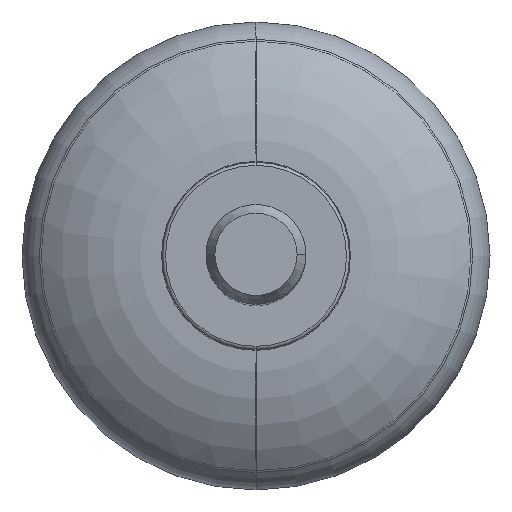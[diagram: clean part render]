
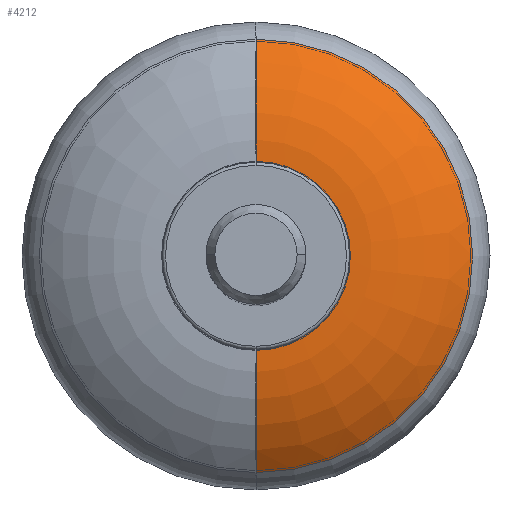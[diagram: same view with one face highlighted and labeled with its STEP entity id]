
A CAD part, top view. The second image highlights one B-rep face of the part: STEP entity #4212.
In plain terms, the highlighted toroidal (fillet/blend) face has major radius 15.132 mm and minor radius 30 mm.
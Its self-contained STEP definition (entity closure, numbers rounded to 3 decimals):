
#17 = CARTESIAN_POINT ( 'NONE',  ( 0., 34.719, -9.277 ) ) ;
#176 = CARTESIAN_POINT ( 'NONE',  ( 0., 14.159, -2.016 ) ) ;
#193 = FACE_OUTER_BOUND ( 'NONE', #1896, .T. ) ;
#244 = VERTEX_POINT ( 'NONE', #17 ) ;
#833 = DIRECTION ( 'NONE',  ( 0., 0., -1. ) ) ;
#898 = ORIENTED_EDGE ( 'NONE', *, *, #1505, .F. ) ;
#1258 = ORIENTED_EDGE ( 'NONE', *, *, #1445, .F. ) ;
#1264 = DIRECTION ( 'NONE',  ( 0., 1., 0. ) ) ;
#1337 = AXIS2_PLACEMENT_3D ( 'NONE', #5335, #833, #4579 ) ;
#1445 = EDGE_CURVE ( 'NONE', #244, #4792, #4297, .T. ) ;
#1505 = EDGE_CURVE ( 'NONE', #4792, #3390, #4386, .T. ) ;
#1555 = ORIENTED_EDGE ( 'NONE', *, *, #4609, .T. ) ;
#1572 = EDGE_CURVE ( 'NONE', #2933, #244, #3615, .T. ) ;
#1599 = CARTESIAN_POINT ( 'NONE',  ( 0., -15.132, -32. ) ) ;
#1664 = CARTESIAN_POINT ( 'NONE',  ( 0., -14.159, -2.016 ) ) ;
#1896 = EDGE_LOOP ( 'NONE', ( #3803, #1555, #898, #1258 ) ) ;
#1952 = TOROIDAL_SURFACE ( 'NONE', #1337, 15.132, 30. ) ;
#1994 = CARTESIAN_POINT ( 'NONE',  ( 0., 0., -9.277 ) ) ;
#2071 = DIRECTION ( 'NONE',  ( -1., 0., 0. ) ) ;
#2471 = DIRECTION ( 'NONE',  ( 0., 0., -1. ) ) ;
#2918 = AXIS2_PLACEMENT_3D ( 'NONE', #1994, #4036, #4558 ) ;
#2933 = VERTEX_POINT ( 'NONE', #176 ) ;
#3130 = CARTESIAN_POINT ( 'NONE',  ( 0., -34.719, -9.277 ) ) ;
#3224 = DIRECTION ( 'NONE',  ( -1., 0., 0. ) ) ;
#3276 = CARTESIAN_POINT ( 'NONE',  ( 0., 15.132, -32. ) ) ;
#3390 = VERTEX_POINT ( 'NONE', #1664 ) ;
#3615 = CIRCLE ( 'NONE', #4581, 30. ) ;
#3678 = AXIS2_PLACEMENT_3D ( 'NONE', #1599, #2071, #4145 ) ;
#3803 = ORIENTED_EDGE ( 'NONE', *, *, #1572, .F. ) ;
#3903 = CIRCLE ( 'NONE', #5222, 14.159 ) ;
#4036 = DIRECTION ( 'NONE',  ( 0., 0., -1. ) ) ;
#4145 = DIRECTION ( 'NONE',  ( 0., -1., 0. ) ) ;
#4212 = ADVANCED_FACE ( 'NONE', ( #193 ), #1952, .T. ) ;
#4297 = CIRCLE ( 'NONE', #2918, 34.719 ) ;
#4386 = CIRCLE ( 'NONE', #3678, 30. ) ;
#4558 = DIRECTION ( 'NONE',  ( 0., 1., 0. ) ) ;
#4579 = DIRECTION ( 'NONE',  ( 0., 1., 0. ) ) ;
#4581 = AXIS2_PLACEMENT_3D ( 'NONE', #3276, #3224, #4884 ) ;
#4609 = EDGE_CURVE ( 'NONE', #2933, #3390, #3903, .T. ) ;
#4792 = VERTEX_POINT ( 'NONE', #3130 ) ;
#4884 = DIRECTION ( 'NONE',  ( 0., 1., 0. ) ) ;
#5222 = AXIS2_PLACEMENT_3D ( 'NONE', #5286, #2471, #1264 ) ;
#5286 = CARTESIAN_POINT ( 'NONE',  ( 0., 0., -2.016 ) ) ;
#5335 = CARTESIAN_POINT ( 'NONE',  ( 0., 0., -32. ) ) ;
